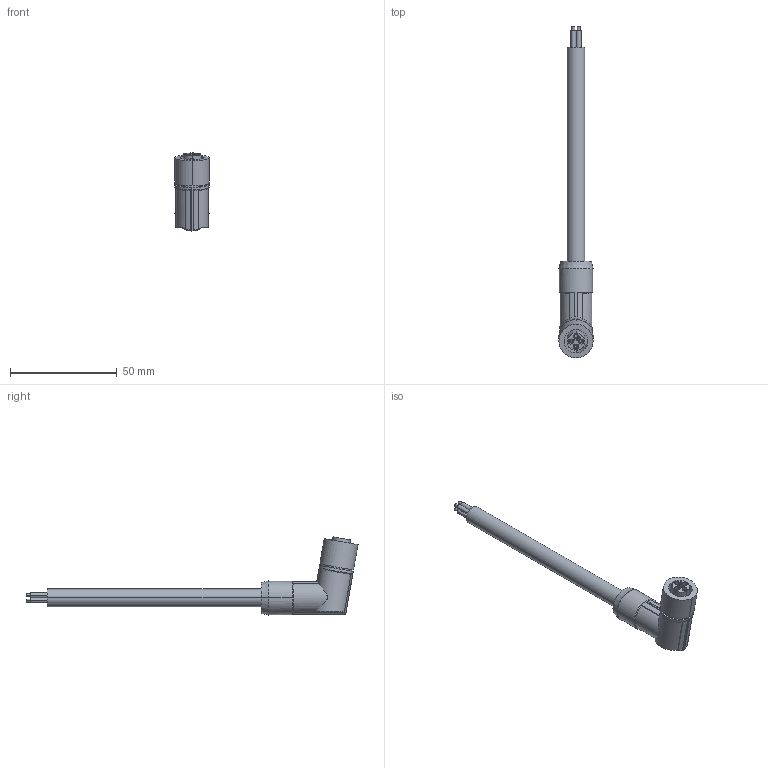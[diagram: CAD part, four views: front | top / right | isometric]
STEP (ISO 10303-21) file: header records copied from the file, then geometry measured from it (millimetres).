
FILE_DESCRIPTION (( 'STEP AP203' ), '1' );
FILE_NAME ('Powerleitung_SAC-4P-2-0-PUR-M12FRT_PhoenixContact_1408828.step', '2022-02-03T16:13:26', ( '' ), ( '' ), 'SwSTEP 2.0', 'SolidWorks 2020', '' );
FILE_SCHEMA (( 'CONFIG_CONTROL_DESIGN' ));
Length unit declared in the file: millimetre
Products named in the file (1): Powerleitung_SAC-4P-2-0-PUR-M12FRT_PhoenixContact_1408828
Bounding box: 16 x 155.25 x 36.53 mm (x, y, z)
Volume: 16527.8 mm3; surface area: 7074.2 mm2
Topology: 1 solids, 1 shells, 110 faces, 251 edges, 166 vertices
Faces by surface type: cylinder 60, plane 43, cone 7
Entity records: 3320 total; most frequent: CARTESIAN_POINT 701, DIRECTION 553, ORIENTED_EDGE 502, EDGE_CURVE 251, AXIS2_PLACEMENT_3D 222, VERTEX_POINT 166, EDGE_LOOP 133, CIRCLE 111
